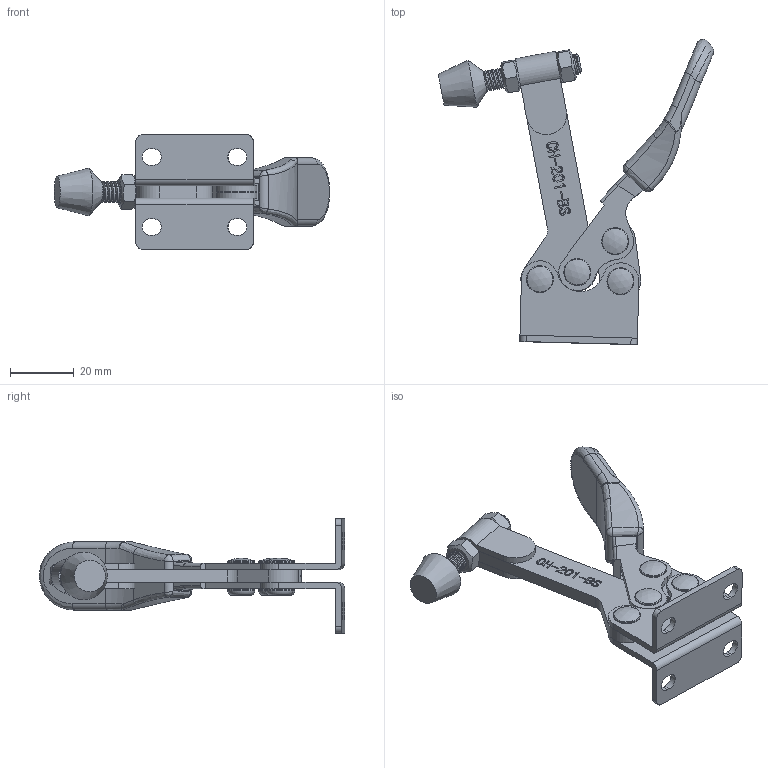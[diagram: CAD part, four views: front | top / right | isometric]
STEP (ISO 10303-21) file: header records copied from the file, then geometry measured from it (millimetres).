
FILE_DESCRIPTION(/* description */ ('STEP AP203'),/* implementation_level */ '2;1');
FILE_NAME(/* name */ 'E:\STRONA\Horizontal toggle clamp\CH-201-BS\CH-201-BS_OTWARTY.stp',/* time_stamp */ '2019-01-10T16:49:49+01:00',/* author */ ('Admin'),/* organization */ ('·L?¤¤?'),/* preprocessor_version */ 'ST-DEVELOPER v17.2',/* originating_system */ 'Autodesk Inventor 2019',/* authorisation */ '');
FILE_SCHEMA (('AUTOMOTIVE_DESIGN { 1 0 10303 214 3 1 1 }'));
Products named in the file (11): CH-201-BS_OTWARTY; 201-BS-02___; 14134___; 201-B-04___; 14134-02___; BR-142___; 201-B___; 201-B-05___; 201-B-03___; 201-B-01___; 201-B-06___
Assembly tree (15 placements, depth 3):
  CH-201-BS_OTWARTY
    14134-02___  x2
    201-B-04___  x2
    201-BS-02___
    201-B-06___  x4
    14134___
    BR-142___
    201-B___
      201-B-05___
      201-B-03___
    201-B-01___
Bounding box: 86.74 x 96.14 x 36 mm (x, y, z)
Volume: 22714.8 mm3; surface area: 24181.6 mm2
Topology: 15 solids, 17 shells, 661 faces, 1818 edges, 1221 vertices
Faces by surface type: plane 261, bspline 215, cylinder 144, cone 18, torus 18, sphere 5
Full cylindrical faces by diameter (mm): 1.7 x1, 2.2 x1, 3.494 x4, 4.7 x4, 4.78 x4, 4.8 x10, 5.1 x6, 6.4 x26, 8.5 x8
Entity records: 49488 total; most frequent: CARTESIAN_POINT 35265, ORIENTED_EDGE 3272, DIRECTION 2177, EDGE_CURVE 1636, VERTEX_POINT 1094, LINE 849, VECTOR 849, AXIS2_PLACEMENT_3D 664
